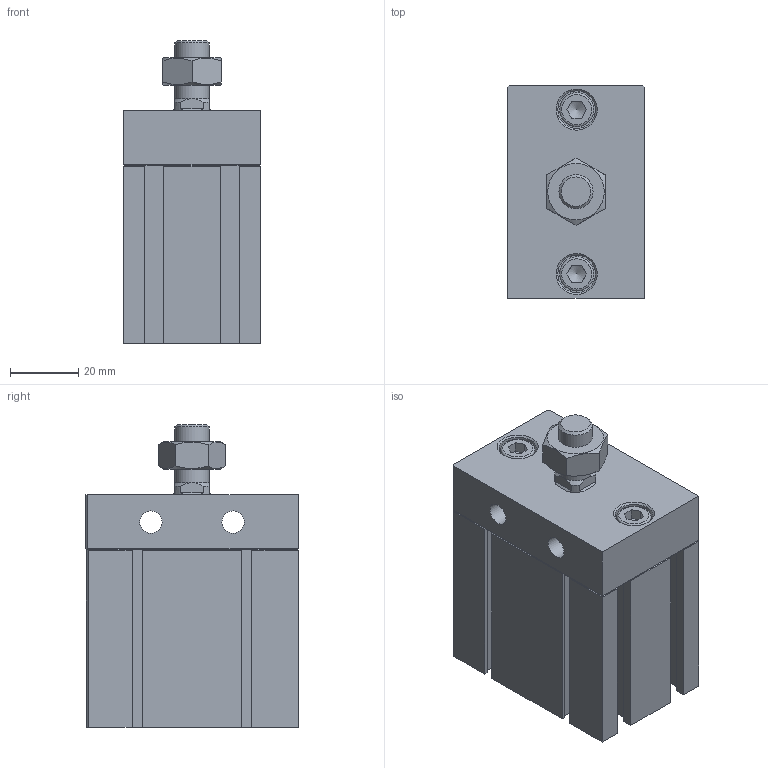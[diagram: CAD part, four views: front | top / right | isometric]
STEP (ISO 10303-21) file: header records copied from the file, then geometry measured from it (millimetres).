
FILE_DESCRIPTION((''),'2;1');
FILE_NAME('I:\3D電子目錄\氣缸\ND\ND\ND32-B\ND32x20-B.stp','2007-07-30T20:21:15',('Administrator'),(''),'Autodesk Inventor 11','Autodesk Inventor 11','');
FILE_SCHEMA(('AUTOMOTIVE_DESIGN { 1 0 10303 214 1 1 1 1 }'));
Length unit declared in the file: millimetre
Products named in the file (4): ND32-B; R 形環 34; ISO 4762 M6 x 16
Assembly tree (4 placements, depth 2):
  ND32-B
    ND32-B
    R 形環 34
    ISO 4762 M6 x 16  x2
Bounding box: 40 x 62.1 x 88.5 mm (x, y, z)
Volume: 151919.2 mm3; surface area: 32496.6 mm2
Topology: 5 solids, 5 shells, 205 faces, 489 edges, 311 vertices
Faces by surface type: plane 141, cylinder 27, cone 20, bspline 14, torus 3
Full cylindrical faces by diameter (mm): 1.9 x2, 2.2 x2, 6 x2, 6.5 x2, 10 x4, 11 x2, 23 x1, 34 x1, 36 x1
Entity records: 5447 total; most frequent: CARTESIAN_POINT 1131, DIRECTION 848, ORIENTED_EDGE 824, EDGE_CURVE 412, VECTOR 294, LINE 294, VERTEX_POINT 286, AXIS2_PLACEMENT_3D 277
